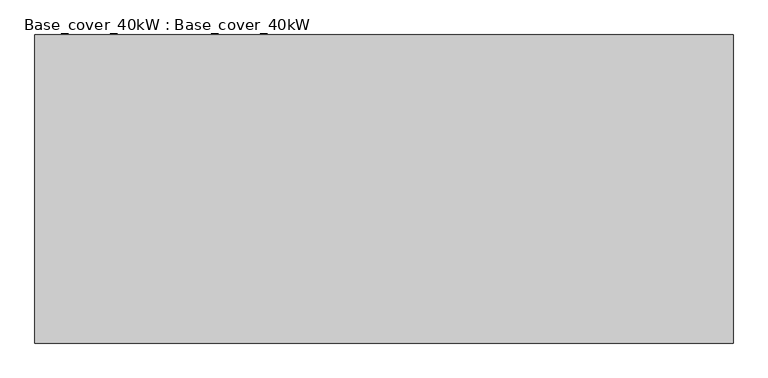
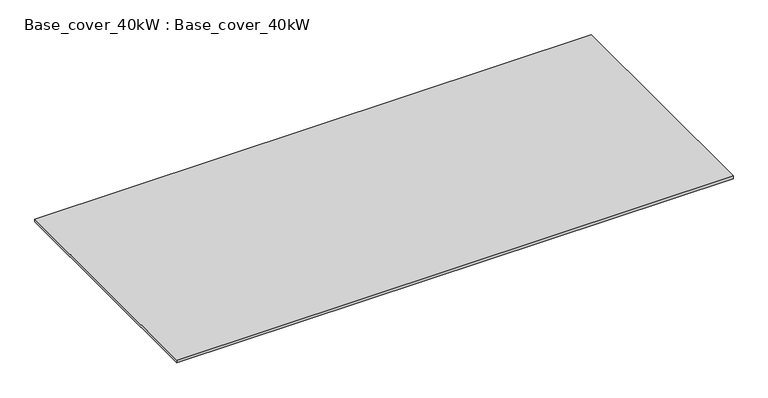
"""IFC4 building model written with IfcOpenShell, lengths in millimetres: beam geometry, Base_cover_40kW : Base_cover_40kW."""

import ifcopenshell
import ifcopenshell.guid

model = None  # the IFC model being written
_history = None  # IfcOwnerHistory: only IFC2X3 demands one
_inside = {}  # id of a spatial element -> (the spatial element, [elements in it])
_under = {}  # id of a project, library or spatial element -> (it, [spatial elements below it])
_declared = {}  # id of a project -> (the project, [libraries it declares])
_typed = {}  # id of a type object -> (the type object, [elements of that type])
_made_of = {}  # id of a material, layer set ... -> (it, [elements and type objects made of it])


def new_model(schema):
    """Start an empty IFC model of exactly this schema.

    Asked for "IFC4X3", IfcOpenShell would pick the latest addendum, in which some entities
    have other attributes; the version numbers below select the first issue.
    IFC2X3 requires an IfcOwnerHistory on every rooted entity: one is made here for all.
    """
    global model, _history
    if schema == "IFC4X3":
        model = ifcopenshell.file(schema_version=(4, 3, 0, 0))
    else:
        model = ifcopenshell.file(schema=schema)
    _inside.clear()
    _under.clear()
    _declared.clear()
    _typed.clear()
    _made_of.clear()
    _history = None
    if model.schema == "IFC2X3":
        org = make("IfcOrganization", Name="unknown")
        user = make(
            "IfcPersonAndOrganization",
            ThePerson=make("IfcPerson", FamilyName="unknown"),
            TheOrganization=org,
        )
        app = make(
            "IfcApplication",
            ApplicationDeveloper=org,
            Version="unknown",
            ApplicationFullName="unknown",
            ApplicationIdentifier="unknown",
        )
        _history = make(
            "IfcOwnerHistory",
            OwningUser=user,
            OwningApplication=app,
            ChangeAction="ADDED",
            CreationDate=0,
        )
    return model


def make(cls, **values):
    """One entity of the class cls with the attributes given. An attribute that is None is left unset."""
    return model.create_entity(
        cls, **{name: value for name, value in values.items() if value is not None}
    )


def rooted(cls, **values):
    """An entity with a GlobalId (a new one), such as an element, a storey or a relation."""
    return make(cls, GlobalId=ifcopenshell.guid.new(), OwnerHistory=_history, **values)


def si_unit(unit_type, name, prefix=None):
    """IfcSIUnit, for example si_unit("LENGTHUNIT", "METRE", prefix="MILLI")."""
    return make("IfcSIUnit", UnitType=unit_type, Prefix=prefix, Name=name)


def assignment(units):
    """IfcUnitAssignment: the units of a project."""
    return None if units is None else make("IfcUnitAssignment", Units=units)


def point(xyz):
    """IfcCartesianPoint."""
    return None if xyz is None else make("IfcCartesianPoint", Coordinates=xyz)


def direction(xyz):
    """IfcDirection."""
    return None if xyz is None else make("IfcDirection", DirectionRatios=xyz)


def frame(location, z_axis=None, x_axis=None):
    """IfcAxis2Placement3D, a coordinate frame: its origin and axes. An axis left out is left unset."""
    return make(
        "IfcAxis2Placement3D",
        Location=point(location),
        Axis=direction(z_axis),
        RefDirection=direction(x_axis),
    )


def origin():
    """The frame at (0, 0, 0) with its axes left unset."""
    return frame((0.0, 0.0, 0.0))


def place(relative_to, where):
    """IfcLocalPlacement: puts the frame where relative to a parent placement (None: the world)."""
    return make(
        "IfcLocalPlacement", PlacementRelTo=relative_to, RelativePlacement=where
    )


def context(
    kind, dimensions, precision=None, world=None, true_north=None, identifier=None
):
    """IfcGeometricRepresentationContext, for example the 3D "Model" context."""
    return make(
        "IfcGeometricRepresentationContext",
        ContextIdentifier=identifier,
        ContextType=kind,
        CoordinateSpaceDimension=dimensions,
        Precision=precision,
        WorldCoordinateSystem=world,
        TrueNorth=true_north,
    )


def project(units=None, contexts=None):
    """IfcProject with its units and contexts."""
    return rooted(
        "IfcProject",
        Name="project",
        RepresentationContexts=contexts,
        UnitsInContext=assignment(units),
    )


def spatial(cls, under=None, at=None, **own):
    """A site, building, storey or space (cls), placed at a placement, below another one or the project."""
    s = rooted(cls, ObjectPlacement=at, **own)
    if under is not None:
        _under.setdefault(under.id(), (under, []))[1].append(s)
    return s


def polyline(points):
    """IfcPolyline through the points."""
    return make("IfcPolyline", Points=[point(p) for p in points])


def outline(outer, holes=None, kind="AREA"):
    """IfcArbitraryClosedProfileDef: a profile drawn as a closed curve; with holes, ...WithVoids."""
    if holes is None:
        return make("IfcArbitraryClosedProfileDef", ProfileType=kind, OuterCurve=outer)
    return make(
        "IfcArbitraryProfileDefWithVoids",
        ProfileType=kind,
        OuterCurve=outer,
        InnerCurves=holes,
    )


def extrude(swept, where, along, depth):
    """IfcExtrudedAreaSolid: the profile swept, set in the frame where, extruded along a direction by depth."""
    return make(
        "IfcExtrudedAreaSolid",
        SweptArea=swept,
        Position=where,
        ExtrudedDirection=direction(along),
        Depth=depth,
    )


def shape(context_of_items, identifier, shape_type, items):
    """IfcShapeRepresentation: the items that make up one representation, for example the "Body"."""
    return make(
        "IfcShapeRepresentation",
        ContextOfItems=context_of_items,
        RepresentationIdentifier=identifier,
        RepresentationType=shape_type,
        Items=items,
    )


def source(mapping_origin, context_of_items, identifier, shape_type, items):
    """IfcRepresentationMap: a shape defined once, which mapped items show again and again."""
    return make(
        "IfcRepresentationMap",
        MappingOrigin=mapping_origin,
        MappedRepresentation=shape(context_of_items, identifier, shape_type, items),
    )


def transform(
    local_origin,
    x_axis=None,
    y_axis=None,
    z_axis=None,
    scale=None,
    scale2=None,
    scale3=None,
    uniform=True,
):
    """IfcCartesianTransformationOperator3D, or its non-uniform kind. x_axis, y_axis, z_axis: its Axis1, 2, 3."""
    if uniform:
        return make(
            "IfcCartesianTransformationOperator3D",
            Axis1=direction(x_axis),
            Axis2=direction(y_axis),
            LocalOrigin=point(local_origin),
            Scale=scale,
            Axis3=direction(z_axis),
        )
    return make(
        "IfcCartesianTransformationOperator3DnonUniform",
        Axis1=direction(x_axis),
        Axis2=direction(y_axis),
        LocalOrigin=point(local_origin),
        Scale=scale,
        Axis3=direction(z_axis),
        Scale2=scale2,
        Scale3=scale3,
    )


def mapped(mapping_source, mapping_target):
    """IfcMappedItem: shows the shape of a source again, moved by a transform."""
    return make(
        "IfcMappedItem", MappingSource=mapping_source, MappingTarget=mapping_target
    )


def made_of(thing, what):
    """Note that an element or type object is made of a material, layer set ...; save() writes the relation."""
    if what is not None:
        _made_of.setdefault(what.id(), (what, []))[1].append(thing)
    return thing


def element(
    cls,
    number,
    at=None,
    inside=None,
    cuts=None,
    type_object=None,
    material=None,
    context=None,
    identifier="Body",
    shape_type=None,
    held_by="IfcProductDefinitionShape",
    body=None,
    shapes=None,
    **own,
):
    """One element of the class cls, such as IfcWall. Its Tag is "e" and its number.

    at: its placement. inside: the storey or other place that contains it. cuts: it is an
    opening in that element (IfcRelVoidsElement). A single representation is given by context,
    identifier, shape_type and body (its items); several are given by shapes. held_by: the class
    of the entity that holds the representations. save() writes the other relations.
    """
    e = rooted(cls, Tag="e%d" % number, ObjectPlacement=at, **own)
    if body is not None:
        shapes = [shape(context, identifier, shape_type, body)]
    if shapes is not None:
        e.Representation = make(held_by, Representations=shapes)
    if inside is not None:
        _inside.setdefault(inside.id(), (inside, []))[1].append(e)
    if cuts is not None:
        rooted(
            "IfcRelVoidsElement", RelatingBuildingElement=cuts, RelatedOpeningElement=e
        )
    if type_object is not None:
        _typed.setdefault(type_object.id(), (type_object, []))[1].append(e)
    return made_of(e, material)


def aggregate(whole, parts):
    """IfcRelAggregates: a whole, such as a stair, and the parts it consists of."""
    return rooted("IfcRelAggregates", RelatingObject=whole, RelatedObjects=parts)


def save(model, path):
    """Write the relations noted so far, then the file.

    IfcRelAggregates (storeys below a building ...), IfcRelContainedInSpatialStructure (elements
    in a storey), IfcRelDefinesByType, IfcRelAssociatesMaterial and IfcRelDeclares: one each for
    every whole, place, type object, material and project.
    """
    for whole, parts in _under.values():
        aggregate(whole, parts)
    for where, things in _inside.values():
        rooted(
            "IfcRelContainedInSpatialStructure",
            RelatedElements=things,
            RelatingStructure=where,
        )
    for kind, things in _typed.values():
        rooted("IfcRelDefinesByType", RelatedObjects=things, RelatingType=kind)
    for what, things in _made_of.values():
        rooted("IfcRelAssociatesMaterial", RelatedObjects=things, RelatingMaterial=what)
    for by, libraries in _declared.values():
        rooted("IfcRelDeclares", RelatingContext=by, RelatedDefinitions=libraries)
    model.write(path)


def base_cover_40kw_base_cover_40kw_a4d79b44(model_context):
    return source(origin(), model_context, "Body", "SweptSolid", [
        extrude(outline(polyline([(3716.0, 1640.0), (3716.0, -1640.0), (-3716.0, -1640.0), (-3716.0, 1640.0), (3716.0, 1640.0)])), frame((0.0, 0.0, 384.0), z_axis=(0.0, 0.0, 1.0), x_axis=(1.0, 0.0, 0.0)), (0.0, 0.0, 1.0), 40.0),
    ])


if __name__ == "__main__":
    model = new_model("IFC4")
    model_context = context("Model", 3, world=origin())
    ifc_project = project(units=[si_unit("LENGTHUNIT", "METRE", prefix="MILLI")], contexts=[model_context])
    site = spatial("IfcSite", under=ifc_project)
    building = spatial("IfcBuilding", under=site)
    placement = place(None, origin())
    base_cover_40kw_base_cover_40kw_shape = base_cover_40kw_base_cover_40kw_a4d79b44(model_context)
    element("IfcBeam", 1, ObjectType="Base_cover_40kW : Base_cover_40kW", at=placement, inside=building, context=model_context, shape_type="MappedRepresentation", body=[
        mapped(base_cover_40kw_base_cover_40kw_shape, transform((0.0, 0.0, 0.0), x_axis=(1.0, 0.0, 0.0), y_axis=(0.0, 1.0, 0.0), z_axis=(0.0, 0.0, 1.0))),
    ])
    save(model, "model.ifc")
